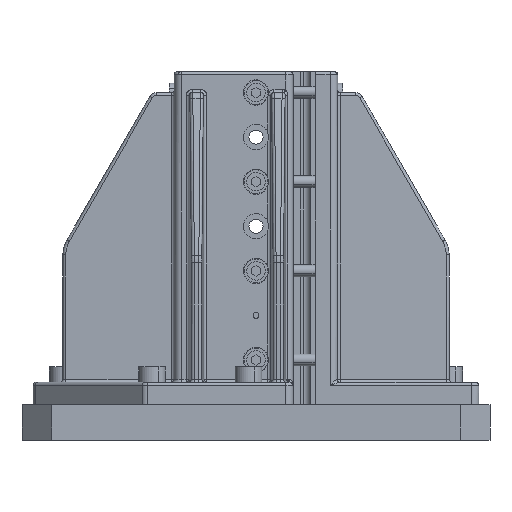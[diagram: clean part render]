
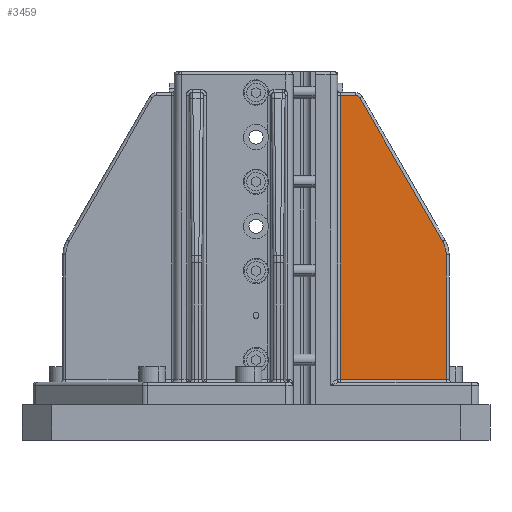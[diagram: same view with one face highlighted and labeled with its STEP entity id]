
A CAD part, front view. The second image highlights one B-rep face of the part: STEP entity #3459.
In plain terms, the highlighted planar face has unit normal (0.035, -0.999, 0).
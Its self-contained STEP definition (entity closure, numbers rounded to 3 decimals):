
#3459=ADVANCED_FACE('Copy (43) of Solid.1',(#7683),#7684,.F.);
#7683=FACE_OUTER_BOUND('',#14366,.T.);
#7684=PLANE('',#14367);
#14366=EDGE_LOOP('',(#26804,#26805,#26806,#26807,#26808,#26809,#26810));
#14367=AXIS2_PLACEMENT_3D('',#26811,#26812,#26813);
#26804=ORIENTED_EDGE('',*,*,#36078,.F.);
#26805=ORIENTED_EDGE('',*,*,#35504,.T.);
#26806=ORIENTED_EDGE('',*,*,#35975,.T.);
#26807=ORIENTED_EDGE('',*,*,#36079,.F.);
#26808=ORIENTED_EDGE('',*,*,#36080,.F.);
#26809=ORIENTED_EDGE('',*,*,#36081,.F.);
#26810=ORIENTED_EDGE('',*,*,#36082,.F.);
#26811=CARTESIAN_POINT('',(55.0,-20.0,136.));
#26812=DIRECTION('',(-0.035,0.999,0.0));
#26813=DIRECTION('',(0.0,0.0,-1.0));
#35504=EDGE_CURVE('',#42807,#42809,#42811,.T.);
#35975=EDGE_CURVE('',#42809,#43428,#43433,.F.);
#36078=EDGE_CURVE('',#42807,#43555,#43556,.F.);
#36079=EDGE_CURVE('',#43557,#43428,#43558,.T.);
#36080=EDGE_CURVE('',#43559,#43557,#43560,.T.);
#36081=EDGE_CURVE('',#43561,#43559,#43562,.T.);
#36082=EDGE_CURVE('',#43555,#43561,#43563,.T.);
#42807=VERTEX_POINT('',#52895);
#42809=VERTEX_POINT('',#52902);
#42811=LINE('',#52904,#52905);
#43428=VERTEX_POINT('',#53958);
#43433=LINE('',#53963,#53964);
#43555=VERTEX_POINT('',#54218);
#43556=LINE('',#54219,#54220);
#43557=VERTEX_POINT('',#54221);
#43558=LINE('',#54222,#54223);
#43559=VERTEX_POINT('',#54224);
#43560=B_SPLINE_CURVE_WITH_KNOTS('',4,(#54225,#54226,#54227,#54228,#54229),.UNSPECIFIED.,.F.,.F.,(5,5),(77.511,91.601),.UNSPECIFIED.);
#43561=VERTEX_POINT('',#54230);
#43562=B_SPLINE_CURVE_WITH_KNOTS('',1,(#54231,#54232),.UNSPECIFIED.,.F.,.F.,(2,2),(-51.236,60.535),.UNSPECIFIED.);
#43563=B_SPLINE_CURVE_WITH_KNOTS('',5,(#54233,#54234,#54235,#54236,#54237,#54238),.UNSPECIFIED.,.F.,.F.,(6,6),(15.269,21.377),.UNSPECIFIED.);
#52895=CARTESIAN_POINT('',(56.656,-19.942,232.0));
#52902=CARTESIAN_POINT('',(56.656,-19.942,41.0));
#52904=CARTESIAN_POINT('',(56.656,-19.942,136.));
#52905=VECTOR('',#62622,1.0);
#53958=CARTESIAN_POINT('',(128.07,-17.448,41.0));
#53963=CARTESIAN_POINT('',(92.771,-18.681,41.0));
#53964=VECTOR('',#63222,1.0);
#54218=CARTESIAN_POINT('',(67.183,-19.575,232.0));
#54219=CARTESIAN_POINT('',(92.771,-18.681,232.0));
#54220=VECTOR('',#63326,1.0);
#54221=CARTESIAN_POINT('',(128.07,-17.448,124.718));
#54222=CARTESIAN_POINT('',(128.07,-17.448,136.));
#54223=VECTOR('',#63327,1.0);
#54224=CARTESIAN_POINT('',(125.658,-17.533,133.718));
#54225=CARTESIAN_POINT('',(125.658,-17.533,133.718));
#54226=CARTESIAN_POINT('',(126.836,-17.491,131.678));
#54227=CARTESIAN_POINT('',(127.658,-17.463,129.431));
#54228=CARTESIAN_POINT('',(128.07,-17.448,127.074));
#54229=CARTESIAN_POINT('',(128.07,-17.448,124.718));
#54230=CARTESIAN_POINT('',(69.781,-19.484,230.5));
#54231=CARTESIAN_POINT('',(69.781,-19.484,230.5));
#54232=CARTESIAN_POINT('',(125.658,-17.533,133.718));
#54233=CARTESIAN_POINT('',(67.183,-19.575,232.));
#54234=CARTESIAN_POINT('',(67.811,-19.553,232.));
#54235=CARTESIAN_POINT('',(68.44,-19.531,231.836));
#54236=CARTESIAN_POINT('',(69.01,-19.511,231.506));
#54237=CARTESIAN_POINT('',(69.467,-19.495,231.044));
#54238=CARTESIAN_POINT('',(69.781,-19.484,230.5));
#62622=DIRECTION('',(0.0,0.0,-1.0));
#63222=DIRECTION('',(-0.999,-0.035,0.0));
#63326=DIRECTION('',(-0.999,-0.035,0.0));
#63327=DIRECTION('',(0.0,0.0,-1.0));
